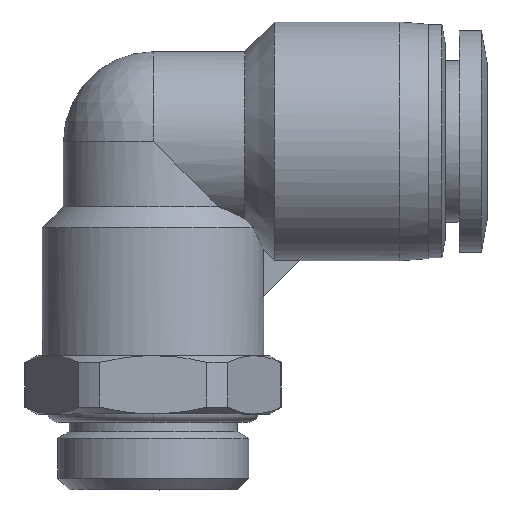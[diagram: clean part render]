
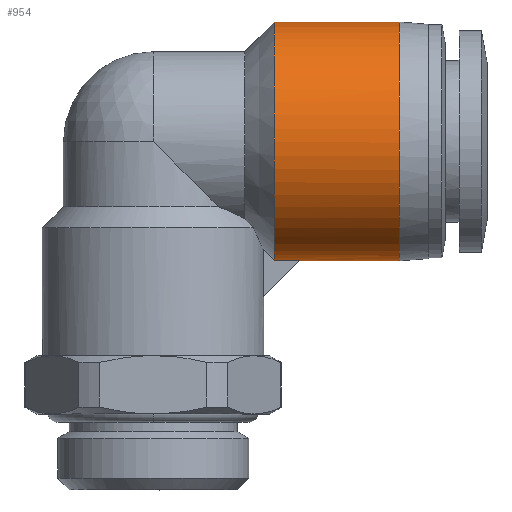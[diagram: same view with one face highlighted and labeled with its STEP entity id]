
A CAD part, top view. The second image highlights one B-rep face of the part: STEP entity #954.
In plain terms, the highlighted cylindrical face has radius 10.25 mm (diameter 20.5 mm), a partial arc.
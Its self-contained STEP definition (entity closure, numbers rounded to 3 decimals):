
#15 = EDGE_CURVE ( 'NONE', #3255, #2862, #1537, .T. ) ;
#29 = CARTESIAN_POINT ( 'NONE',  ( 12.5, 8.15, 0. ) ) ;
#146 = CARTESIAN_POINT ( 'NONE',  ( 21.1, 28.65, 0. ) ) ;
#221 = EDGE_CURVE ( 'NONE', #1756, #2471, #2238, .T. ) ;
#287 = CARTESIAN_POINT ( 'NONE',  ( 21.1, 8.15, 1.342 ) ) ;
#291 = CARTESIAN_POINT ( 'NONE',  ( 10.4, 8.326, 2.294 ) ) ;
#312 = CARTESIAN_POINT ( 'NONE',  ( 12.5, 8.15, 0. ) ) ;
#315 = CARTESIAN_POINT ( 'NONE',  ( 10.4, 8.199, 1. ) ) ;
#431 = DIRECTION ( 'NONE',  ( 0., 1., 0. ) ) ;
#502 = CARTESIAN_POINT ( 'NONE',  ( 15.75, 8.15, 0. ) ) ;
#545 = CARTESIAN_POINT ( 'NONE',  ( 21.1, 21.083, 9.983 ) ) ;
#566 = CARTESIAN_POINT ( 'NONE',  ( 10.4, 26.719, 6.127 ) ) ;
#601 = AXIS2_PLACEMENT_3D ( 'NONE', #2216, #1493, #431 ) ;
#644 = VERTEX_POINT ( 'NONE', #146 ) ;
#661 = CARTESIAN_POINT ( 'NONE',  ( 21.1, 10.203, 6.299 ) ) ;
#732 = CARTESIAN_POINT ( 'NONE',  ( 10.4, 28.65, 0. ) ) ;
#912 = CARTESIAN_POINT ( 'NONE',  ( 10.4, 23.849, 8.779 ) ) ;
#950 = CARTESIAN_POINT ( 'NONE',  ( 12.516, 8.166, 0.667 ) ) ;
#954 = ADVANCED_FACE ( 'NONE', ( #2917 ), #3265, .T. ) ;
#1138 = ORIENTED_EDGE ( 'NONE', *, *, #3398, .F. ) ;
#1180 = CARTESIAN_POINT ( 'NONE',  ( 15.75, 28.65, 0. ) ) ;
#1233 = CARTESIAN_POINT ( 'NONE',  ( 21.1, 26.597, 6.299 ) ) ;
#1235 = EDGE_CURVE ( 'NONE', #2043, #2471, #1802, .T. ) ;
#1258 = CARTESIAN_POINT ( 'NONE',  ( 10.4, 28.65, 0. ) ) ;
#1345 = CARTESIAN_POINT ( 'NONE',  ( 12.549, 8.199, 1. ) ) ;
#1463 = EDGE_CURVE ( 'NONE', #644, #2862, #2087, .T. ) ;
#1493 = DIRECTION ( 'NONE',  ( 1., 0., 0. ) ) ;
#1537 = LINE ( 'NONE', #502, #3281 ) ;
#1580 = CARTESIAN_POINT ( 'NONE',  ( 21.1, 28.65, 0. ) ) ;
#1604 = CARTESIAN_POINT ( 'NONE',  ( 10.4, 24.926, 8.01 ) ) ;
#1625 = CARTESIAN_POINT ( 'NONE',  ( 10.4, 21.485, 9.861 ) ) ;
#1756 = VERTEX_POINT ( 'NONE', #4510 ) ;
#1802 = B_SPLINE_CURVE_WITH_KNOTS ( 'NONE', 3,
 ( #1258, #4431, #2057, #2316, #566, #1604, #912, #1625, #2333, #4474, #2357, #3470, #2684, #1966, #4451, #4107, #291, #1985 ),
 .UNSPECIFIED., .F., .F.,
 ( 4, 2, 2, 2, 2, 2, 2, 2, 4 ),
 ( 0.5, 0.563, 0.625, 0.688, 0.75, 0.813, 0.875, 0.938, 1. ),
 .UNSPECIFIED. ) ;
#1966 = CARTESIAN_POINT ( 'NONE',  ( 10.4, 10.718, 6.91 ) ) ;
#1985 = CARTESIAN_POINT ( 'NONE',  ( 10.4, 8.199, 1. ) ) ;
#2043 = VERTEX_POINT ( 'NONE', #732 ) ;
#2057 = CARTESIAN_POINT ( 'NONE',  ( 10.4, 28.4, 2.6 ) ) ;
#2079 = CARTESIAN_POINT ( 'NONE',  ( 21.1, 15.717, 9.983 ) ) ;
#2080 = CARTESIAN_POINT ( 'NONE',  ( 11.833, 8.199, 1. ) ) ;
#2087 = B_SPLINE_CURVE_WITH_KNOTS ( 'NONE', 3,
 ( #1580, #3691, #4390, #2286, #1233, #2313, #3715, #545, #2801, #3467, #2079, #3782, #2353, #661, #4128, #4199, #287, #3490 ),
 .UNSPECIFIED., .F., .F.,
 ( 4, 2, 2, 2, 2, 2, 2, 2, 4 ),
 ( 0., 0.062, 0.125, 0.187, 0.25, 0.312, 0.375, 0.437, 0.5 ),
 .UNSPECIFIED. ) ;
#2149 = ORIENTED_EDGE ( 'NONE', *, *, #1235, .T. ) ;
#2216 = CARTESIAN_POINT ( 'NONE',  ( 15.75, 18.4, 0. ) ) ;
#2230 = DIRECTION ( 'NONE',  ( 1., 0., 0. ) ) ;
#2238 = B_SPLINE_CURVE_WITH_KNOTS ( 'NONE', 3,
 ( #1345, #2080, #4226, #315 ),
 .UNSPECIFIED., .F., .F.,
 ( 4, 4 ),
 ( 0., 1. ),
 .UNSPECIFIED. ) ;
#2245 = EDGE_CURVE ( 'NONE', #3255, #1756, #3368, .T. ) ;
#2286 = CARTESIAN_POINT ( 'NONE',  ( 21.1, 27.356, 5.162 ) ) ;
#2313 = CARTESIAN_POINT ( 'NONE',  ( 21.1, 24.699, 8.197 ) ) ;
#2316 = CARTESIAN_POINT ( 'NONE',  ( 10.4, 27.434, 5.014 ) ) ;
#2333 = CARTESIAN_POINT ( 'NONE',  ( 10.4, 20.199, 10.174 ) ) ;
#2351 = CARTESIAN_POINT ( 'NONE',  ( 12.549, 8.199, 1. ) ) ;
#2353 = CARTESIAN_POINT ( 'NONE',  ( 21.1, 12.101, 8.197 ) ) ;
#2357 = CARTESIAN_POINT ( 'NONE',  ( 10.4, 16.292, 10.115 ) ) ;
#2374 = CARTESIAN_POINT ( 'NONE',  ( 12.5, 8.15, 0.333 ) ) ;
#2471 = VERTEX_POINT ( 'NONE', #3665 ) ;
#2684 = CARTESIAN_POINT ( 'NONE',  ( 10.4, 12.686, 8.609 ) ) ;
#2746 = ORIENTED_EDGE ( 'NONE', *, *, #2245, .F. ) ;
#2801 = CARTESIAN_POINT ( 'NONE',  ( 21.1, 19.742, 10.25 ) ) ;
#2862 = VERTEX_POINT ( 'NONE', #3458 ) ;
#2917 = FACE_OUTER_BOUND ( 'NONE', #3388, .T. ) ;
#2932 = LINE ( 'NONE', #1180, #3105 ) ;
#3105 = VECTOR ( 'NONE', #2230, 1000. ) ;
#3255 = VERTEX_POINT ( 'NONE', #29 ) ;
#3265 = CYLINDRICAL_SURFACE ( 'NONE', #601, 10.25 ) ;
#3281 = VECTOR ( 'NONE', #3728, 1000. ) ;
#3368 = B_SPLINE_CURVE_WITH_KNOTS ( 'NONE', 3,
 ( #312, #2374, #950, #2351 ),
 .UNSPECIFIED., .F., .F.,
 ( 4, 4 ),
 ( 0.5, 1. ),
 .UNSPECIFIED. ) ;
#3384 = ORIENTED_EDGE ( 'NONE', *, *, #15, .T. ) ;
#3388 = EDGE_LOOP ( 'NONE', ( #2746, #3384, #3548, #1138, #2149, #4383 ) ) ;
#3398 = EDGE_CURVE ( 'NONE', #2043, #644, #2932, .T. ) ;
#3458 = CARTESIAN_POINT ( 'NONE',  ( 21.1, 8.15, 0. ) ) ;
#3467 = CARTESIAN_POINT ( 'NONE',  ( 21.1, 17.058, 10.25 ) ) ;
#3470 = CARTESIAN_POINT ( 'NONE',  ( 10.4, 13.834, 9.268 ) ) ;
#3490 = CARTESIAN_POINT ( 'NONE',  ( 21.1, 8.15, 0. ) ) ;
#3548 = ORIENTED_EDGE ( 'NONE', *, *, #1463, .F. ) ;
#3665 = CARTESIAN_POINT ( 'NONE',  ( 10.4, 8.199, 1. ) ) ;
#3691 = CARTESIAN_POINT ( 'NONE',  ( 21.1, 28.65, 1.342 ) ) ;
#3715 = CARTESIAN_POINT ( 'NONE',  ( 21.1, 23.562, 8.956 ) ) ;
#3728 = DIRECTION ( 'NONE',  ( 1., 0., 0. ) ) ;
#3782 = CARTESIAN_POINT ( 'NONE',  ( 21.1, 13.238, 8.956 ) ) ;
#4107 = CARTESIAN_POINT ( 'NONE',  ( 10.4, 8.702, 3.563 ) ) ;
#4128 = CARTESIAN_POINT ( 'NONE',  ( 21.1, 9.444, 5.162 ) ) ;
#4199 = CARTESIAN_POINT ( 'NONE',  ( 21.1, 8.417, 2.683 ) ) ;
#4226 = CARTESIAN_POINT ( 'NONE',  ( 11.116, 8.199, 1. ) ) ;
#4383 = ORIENTED_EDGE ( 'NONE', *, *, #221, .F. ) ;
#4390 = CARTESIAN_POINT ( 'NONE',  ( 21.1, 28.383, 2.683 ) ) ;
#4431 = CARTESIAN_POINT ( 'NONE',  ( 10.4, 28.65, 1.3 ) ) ;
#4451 = CARTESIAN_POINT ( 'NONE',  ( 10.4, 9.898, 5.871 ) ) ;
#4474 = CARTESIAN_POINT ( 'NONE',  ( 10.4, 17.602, 10.301 ) ) ;
#4510 = CARTESIAN_POINT ( 'NONE',  ( 12.549, 8.199, 1. ) ) ;
